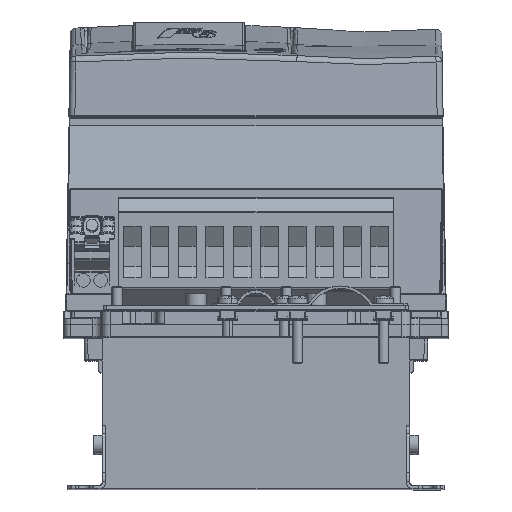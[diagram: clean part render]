
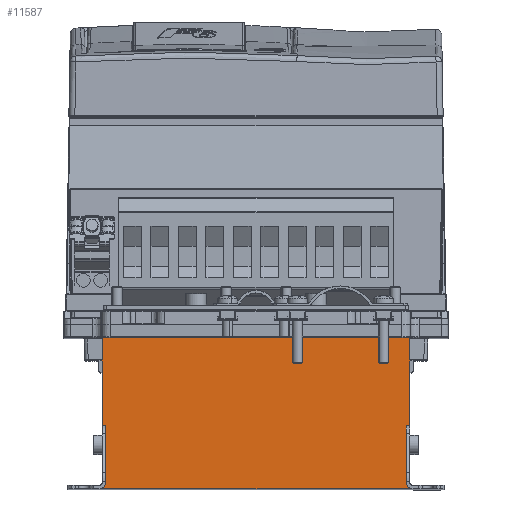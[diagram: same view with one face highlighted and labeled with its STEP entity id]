
A CAD part, top view. The second image highlights one B-rep face of the part: STEP entity #11587.
In plain terms, the highlighted planar face has unit normal (0, 0, 1).
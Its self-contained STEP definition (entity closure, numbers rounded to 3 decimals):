
#940 = AXIS2_PLACEMENT_3D ( 'NONE', #34015, #43339, #12782 ) ;
#3121 = DIRECTION ( 'NONE',  ( 0., 0., -1. ) ) ;
#3988 = ORIENTED_EDGE ( 'NONE', *, *, #41460, .T. ) ;
#4657 = ORIENTED_EDGE ( 'NONE', *, *, #10408, .T. ) ;
#4785 = CARTESIAN_POINT ( 'NONE',  ( -85.5, -38., 159. ) ) ;
#7177 = LINE ( 'NONE', #89055, #98305 ) ;
#7306 = EDGE_CURVE ( 'NONE', #27696, #82635, #92142, .T. ) ;
#7952 = VECTOR ( 'NONE', #54297, 1000. ) ;
#9685 = VERTEX_POINT ( 'NONE', #54410 ) ;
#10408 = EDGE_CURVE ( 'NONE', #76843, #89270, #67188, .T. ) ;
#10553 = EDGE_CURVE ( 'NONE', #120450, #45318, #32622, .T. ) ;
#11587 = ADVANCED_FACE ( 'NONE', ( #125235 ), #85324, .T. ) ;
#11850 = ORIENTED_EDGE ( 'NONE', *, *, #10553, .T. ) ;
#12782 = DIRECTION ( 'NONE',  ( -1., 0., 0. ) ) ;
#13558 = EDGE_CURVE ( 'NONE', #76843, #9685, #26377, .T. ) ;
#13758 = CARTESIAN_POINT ( 'NONE',  ( -89.5, -71., 159. ) ) ;
#14629 = VERTEX_POINT ( 'NONE', #26735 ) ;
#15838 = CARTESIAN_POINT ( 'NONE',  ( 93.5, -75., 159. ) ) ;
#16391 = CARTESIAN_POINT ( 'NONE',  ( 2., 13., 159. ) ) ;
#16566 = EDGE_CURVE ( 'NONE', #118020, #89270, #62312, .T. ) ;
#16600 = DIRECTION ( 'NONE',  ( 0., -1., 0. ) ) ;
#16900 = CARTESIAN_POINT ( 'NONE',  ( -85.5, -73., 159. ) ) ;
#19336 = EDGE_CURVE ( 'NONE', #84288, #118020, #108101, .T. ) ;
#22432 = EDGE_CURVE ( 'NONE', #82635, #45318, #107946, .T. ) ;
#22497 = DIRECTION ( 'NONE',  ( 0., -1., 0. ) ) ;
#24156 = ORIENTED_EDGE ( 'NONE', *, *, #16566, .F. ) ;
#26377 = LINE ( 'NONE', #16391, #86120 ) ;
#26735 = CARTESIAN_POINT ( 'NONE',  ( -89.5, -75., 159. ) ) ;
#27329 = CARTESIAN_POINT ( 'NONE',  ( 91.5, -38., 159. ) ) ;
#27337 = EDGE_LOOP ( 'NONE', ( #11850, #70166, #111223, #75768, #101405, #4657, #24156, #108017, #3988, #71743 ) ) ;
#27696 = VERTEX_POINT ( 'NONE', #27329 ) ;
#32622 = CIRCLE ( 'NONE', #56017, 4. ) ;
#34015 = CARTESIAN_POINT ( 'NONE',  ( 87., 10., 159. ) ) ;
#41460 = EDGE_CURVE ( 'NONE', #84288, #14629, #111296, .T. ) ;
#43339 = DIRECTION ( 'NONE',  ( 0., 0., 1. ) ) ;
#45318 = VERTEX_POINT ( 'NONE', #91990 ) ;
#46825 = DIRECTION ( 'NONE',  ( 0., 1., 0. ) ) ;
#50665 = CARTESIAN_POINT ( 'NONE',  ( -87.5, 13., 159. ) ) ;
#53032 = DIRECTION ( 'NONE',  ( 1., 0., 0. ) ) ;
#53880 = AXIS2_PLACEMENT_3D ( 'NONE', #13758, #3121, #94989 ) ;
#54297 = DIRECTION ( 'NONE',  ( -1., 0., 0. ) ) ;
#54410 = CARTESIAN_POINT ( 'NONE',  ( 91.5, 13., 159. ) ) ;
#54437 = DIRECTION ( 'NONE',  ( 0., 0., -1. ) ) ;
#55017 = EDGE_CURVE ( 'NONE', #14629, #120450, #102320, .T. ) ;
#56017 = AXIS2_PLACEMENT_3D ( 'NONE', #113702, #54437, #22497 ) ;
#56995 = DIRECTION ( 'NONE',  ( 1., 0., 0. ) ) ;
#58192 = VECTOR ( 'NONE', #53032, 1000. ) ;
#62312 = LINE ( 'NONE', #102263, #7952 ) ;
#62367 = CARTESIAN_POINT ( 'NONE',  ( -89.5, -75., 159. ) ) ;
#67188 = LINE ( 'NONE', #107809, #107078 ) ;
#70166 = ORIENTED_EDGE ( 'NONE', *, *, #22432, .F. ) ;
#71743 = ORIENTED_EDGE ( 'NONE', *, *, #55017, .T. ) ;
#72138 = DIRECTION ( 'NONE',  ( -1., 0., 0. ) ) ;
#75328 = EDGE_CURVE ( 'NONE', #27696, #9685, #7177, .T. ) ;
#75768 = ORIENTED_EDGE ( 'NONE', *, *, #75328, .T. ) ;
#76843 = VERTEX_POINT ( 'NONE', #50665 ) ;
#79051 = DIRECTION ( 'NONE',  ( 0., 1., 0. ) ) ;
#79308 = DIRECTION ( 'NONE',  ( 0., -1., 0. ) ) ;
#82635 = VERTEX_POINT ( 'NONE', #115720 ) ;
#84288 = VERTEX_POINT ( 'NONE', #111959 ) ;
#85324 = PLANE ( 'NONE',  #940 ) ;
#86120 = VECTOR ( 'NONE', #56995, 1000. ) ;
#89055 = CARTESIAN_POINT ( 'NONE',  ( 91.5, -74.464, 159. ) ) ;
#89270 = VERTEX_POINT ( 'NONE', #124203 ) ;
#91990 = CARTESIAN_POINT ( 'NONE',  ( 89.5, -71., 159. ) ) ;
#92142 = LINE ( 'NONE', #122063, #94107 ) ;
#94107 = VECTOR ( 'NONE', #72138, 1000. ) ;
#94989 = DIRECTION ( 'NONE',  ( 0., -1., 0. ) ) ;
#98305 = VECTOR ( 'NONE', #79051, 1000. ) ;
#101405 = ORIENTED_EDGE ( 'NONE', *, *, #13558, .F. ) ;
#102263 = CARTESIAN_POINT ( 'NONE',  ( -85.5, -38., 159. ) ) ;
#102320 = LINE ( 'NONE', #62367, #58192 ) ;
#103913 = VECTOR ( 'NONE', #46825, 1000. ) ;
#107078 = VECTOR ( 'NONE', #16600, 1000. ) ;
#107290 = CARTESIAN_POINT ( 'NONE',  ( 89.5, -73., 159. ) ) ;
#107809 = CARTESIAN_POINT ( 'NONE',  ( -87.5, 13., 159. ) ) ;
#107946 = LINE ( 'NONE', #107290, #123900 ) ;
#108017 = ORIENTED_EDGE ( 'NONE', *, *, #19336, .F. ) ;
#108101 = LINE ( 'NONE', #16900, #103913 ) ;
#111223 = ORIENTED_EDGE ( 'NONE', *, *, #7306, .F. ) ;
#111296 = CIRCLE ( 'NONE', #53880, 4. ) ;
#111959 = CARTESIAN_POINT ( 'NONE',  ( -85.5, -71., 159. ) ) ;
#113702 = CARTESIAN_POINT ( 'NONE',  ( 93.5, -71., 159. ) ) ;
#115720 = CARTESIAN_POINT ( 'NONE',  ( 89.5, -38., 159. ) ) ;
#118020 = VERTEX_POINT ( 'NONE', #4785 ) ;
#120450 = VERTEX_POINT ( 'NONE', #15838 ) ;
#122063 = CARTESIAN_POINT ( 'NONE',  ( 89.5, -38., 159. ) ) ;
#123900 = VECTOR ( 'NONE', #79308, 1000. ) ;
#124203 = CARTESIAN_POINT ( 'NONE',  ( -87.5, -38., 159. ) ) ;
#125235 = FACE_OUTER_BOUND ( 'NONE', #27337, .T. ) ;
